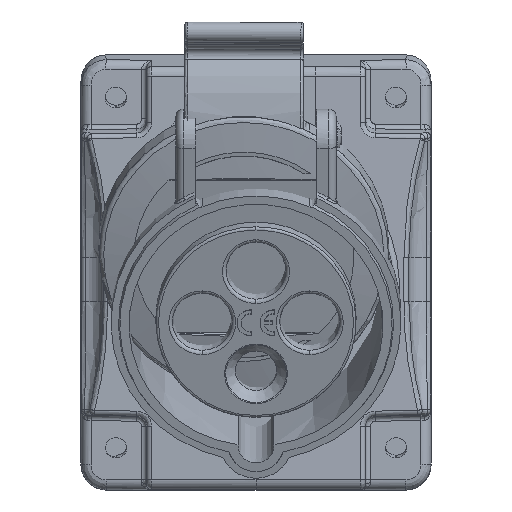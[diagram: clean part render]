
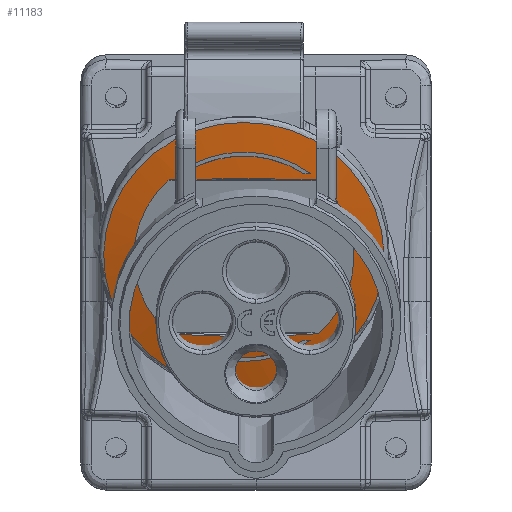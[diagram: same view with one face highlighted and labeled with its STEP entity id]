
A CAD part, front view. The second image highlights one B-rep face of the part: STEP entity #11183.
In plain terms, the highlighted spherical face has radius 220 mm.
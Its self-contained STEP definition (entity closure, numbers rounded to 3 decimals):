
#49=VERTEX_LOOP('',#26474);
#74=SPHERICAL_SURFACE('',#35414,220.);
#500=FACE_BOUND('',#49,.T.);
#501=FACE_BOUND('',#14110,.T.);
#502=FACE_BOUND('',#14111,.T.);
#503=FACE_BOUND('',#14112,.T.);
#504=FACE_BOUND('',#14113,.T.);
#11183=ADVANCED_FACE('',(#500,#501,#502,#503,#504),#74,.T.);
#14110=EDGE_LOOP('',(#22140,#22141));
#14111=EDGE_LOOP('',(#22142,#22143,#22144,#22145));
#14112=EDGE_LOOP('',(#22146,#22147,#22148,#22149));
#14113=EDGE_LOOP('',(#22150,#22151,#22152,#22153));
#15229=CIRCLE('',#35261,178.7);
#15231=CIRCLE('',#35264,22.022);
#15232=CIRCLE('',#35266,21.222);
#15280=CIRCLE('',#35351,22.022);
#15285=CIRCLE('',#35358,178.7);
#15286=CIRCLE('',#35360,22.022);
#15287=CIRCLE('',#35361,22.022);
#15301=CIRCLE('',#35384,28.033);
#15318=CIRCLE('',#35410,219.303);
#15319=CIRCLE('',#35411,219.303);
#15320=CIRCLE('',#35412,219.303);
#15321=CIRCLE('',#35413,219.303);
#22140=ORIENTED_EDGE('',*,*,#30365,.T.);
#22141=ORIENTED_EDGE('',*,*,#30328,.T.);
#22142=ORIENTED_EDGE('',*,*,#30160,.T.);
#22143=ORIENTED_EDGE('',*,*,#30298,.T.);
#22144=ORIENTED_EDGE('',*,*,#30295,.T.);
#22145=ORIENTED_EDGE('',*,*,#30296,.T.);
#22146=ORIENTED_EDGE('',*,*,#30164,.T.);
#22147=ORIENTED_EDGE('',*,*,#30366,.T.);
#22148=ORIENTED_EDGE('',*,*,#30167,.T.);
#22149=ORIENTED_EDGE('',*,*,#30367,.T.);
#22150=ORIENTED_EDGE('',*,*,#30368,.T.);
#22151=ORIENTED_EDGE('',*,*,#30282,.F.);
#22152=ORIENTED_EDGE('',*,*,#30369,.T.);
#22153=ORIENTED_EDGE('',*,*,#30370,.T.);
#26324=VERTEX_POINT('',#63610);
#26326=VERTEX_POINT('',#63644);
#26327=VERTEX_POINT('',#63648);
#26330=VERTEX_POINT('',#63653);
#26331=VERTEX_POINT('',#63660);
#26332=VERTEX_POINT('',#63662);
#26421=VERTEX_POINT('',#64033);
#26422=VERTEX_POINT('',#64034);
#26432=VERTEX_POINT('',#64098);
#26434=VERTEX_POINT('',#64132);
#26452=VERTEX_POINT('',#64217);
#26453=VERTEX_POINT('',#64219);
#26474=VERTEX_POINT('',#64402);
#26475=VERTEX_POINT('',#64416);
#26476=VERTEX_POINT('',#64418);
#30160=EDGE_CURVE('',#26324,#26326,#15229,.T.);
#30164=EDGE_CURVE('',#26327,#26330,#15231,.T.);
#30167=EDGE_CURVE('',#26331,#26332,#15232,.T.);
#30282=EDGE_CURVE('',#26421,#26422,#15280,.T.);
#30295=EDGE_CURVE('',#26432,#26434,#15285,.T.);
#30296=EDGE_CURVE('',#26434,#26324,#15286,.T.);
#30298=EDGE_CURVE('',#26326,#26432,#15287,.T.);
#30328=EDGE_CURVE('',#26453,#26452,#15301,.T.);
#30365=EDGE_CURVE('',#26452,#26453,#32985,.T.);
#30366=EDGE_CURVE('',#26330,#26331,#15318,.T.);
#30367=EDGE_CURVE('',#26332,#26327,#15319,.T.);
#30368=EDGE_CURVE('',#26475,#26422,#15320,.T.);
#30369=EDGE_CURVE('',#26421,#26476,#15321,.T.);
#30370=EDGE_CURVE('',#26476,#26475,#32986,.T.);
#32985=B_SPLINE_CURVE_WITH_KNOTS('',3,(#64403,#64404,#64405,#64406,#64407,
#64408,#64409,#64410,#64411,#64412),.UNSPECIFIED.,.F.,.F.,(4,2,2,2,4),(0.,
0.25,0.5,0.75,1.),.UNSPECIFIED.);
#32986=B_SPLINE_CURVE_WITH_KNOTS('',3,(#64419,#64420,#64421,#64422,#64423,
#64424),.UNSPECIFIED.,.F.,.F.,(4,2,4),(0.,0.5,1.),.UNSPECIFIED.);
#35261=AXIS2_PLACEMENT_3D('',#63645,#39466,#39467);
#35264=AXIS2_PLACEMENT_3D('',#63654,#39474,#39475);
#35266=AXIS2_PLACEMENT_3D('',#63663,#39479,#39480);
#35351=AXIS2_PLACEMENT_3D('',#64032,#39699,#39700);
#35358=AXIS2_PLACEMENT_3D('',#64133,#39717,#39718);
#35360=AXIS2_PLACEMENT_3D('',#64135,#39721,#39722);
#35361=AXIS2_PLACEMENT_3D('',#64137,#39724,#39725);
#35384=AXIS2_PLACEMENT_3D('',#64218,#39783,#39784);
#35410=AXIS2_PLACEMENT_3D('',#64413,#39850,#39851);
#35411=AXIS2_PLACEMENT_3D('',#64414,#39852,#39853);
#35412=AXIS2_PLACEMENT_3D('',#64415,#39854,#39855);
#35413=AXIS2_PLACEMENT_3D('',#64417,#39856,#39857);
#35414=AXIS2_PLACEMENT_3D('',#64425,#39858,#39859);
#39466=DIRECTION('',(0.,0.848,-0.53));
#39467=DIRECTION('',(0.,0.53,0.848));
#39474=DIRECTION('',(0.,0.951,0.309));
#39475=DIRECTION('',(-1.,0.,0.));
#39479=DIRECTION('',(0.,-0.951,-0.309));
#39480=DIRECTION('',(-1.,0.,0.));
#39699=DIRECTION('',(0.,-0.951,-0.309));
#39700=DIRECTION('',(1.,0.,0.));
#39717=DIRECTION('',(0.,0.375,0.927));
#39718=DIRECTION('',(0.,-0.927,0.375));
#39721=DIRECTION('',(0.,0.951,0.309));
#39722=DIRECTION('',(-1.,0.,0.));
#39724=DIRECTION('',(0.,0.951,0.309));
#39725=DIRECTION('',(-1.,0.,0.));
#39783=DIRECTION('',(0.,-0.951,-0.309));
#39784=DIRECTION('',(0.,-0.309,0.951));
#39850=DIRECTION('',(0.,0.309,-0.951));
#39851=DIRECTION('',(0.,0.951,0.309));
#39852=DIRECTION('',(0.,0.309,-0.951));
#39853=DIRECTION('',(0.,0.951,0.309));
#39854=DIRECTION('',(0.,-0.309,0.951));
#39855=DIRECTION('',(0.,0.951,0.309));
#39856=DIRECTION('',(0.,-0.309,0.951));
#39857=DIRECTION('',(0.,0.951,0.309));
#39858=DIRECTION('',(0.,-0.951,-0.309));
#39859=DIRECTION('',(-0.004,0.309,-0.951));
#63610=CARTESIAN_POINT('',(12.518,107.4,30.971));
#63644=CARTESIAN_POINT('',(-17.396,107.4,30.971));
#63645=CARTESIAN_POINT('',(-2.439,201.764,181.985));
#63648=CARTESIAN_POINT('',(-15.808,96.997,62.987));
#63653=CARTESIAN_POINT('',(10.93,96.997,62.987));
#63654=CARTESIAN_POINT('',(-2.439,102.405,46.343));
#63660=CARTESIAN_POINT('',(9.567,96.922,62.962));
#63662=CARTESIAN_POINT('',(-14.444,96.922,62.962));
#63663=CARTESIAN_POINT('',(-2.439,102.33,46.319));
#64032=CARTESIAN_POINT('',(-2.439,102.405,46.343));
#64033=CARTESIAN_POINT('',(-15.807,107.813,29.699));
#64034=CARTESIAN_POINT('',(10.929,107.813,29.699));
#64098=CARTESIAN_POINT('',(-17.397,97.41,61.715));
#64132=CARTESIAN_POINT('',(12.519,97.41,61.715));
#64133=CARTESIAN_POINT('',(-2.439,262.516,-4.992));
#64135=CARTESIAN_POINT('',(-2.439,102.405,46.343));
#64137=CARTESIAN_POINT('',(-2.439,102.405,46.343));
#64217=CARTESIAN_POINT('',(-8.269,111.533,20.478));
#64218=CARTESIAN_POINT('',(-2.439,103.06,46.556));
#64219=CARTESIAN_POINT('',(3.391,111.533,20.478));
#64402=CARTESIAN_POINT('',(-15.808,107.813,29.699));
#64403=CARTESIAN_POINT('',(-8.269,111.533,20.478));
#64404=CARTESIAN_POINT('',(-7.871,112.049,19.355));
#64405=CARTESIAN_POINT('',(-7.087,112.502,18.368));
#64406=CARTESIAN_POINT('',(-5.003,113.14,16.98));
#64407=CARTESIAN_POINT('',(-3.737,113.315,16.601));
#64408=CARTESIAN_POINT('',(-1.14,113.315,16.601));
#64409=CARTESIAN_POINT('',(0.126,113.14,16.981));
#64410=CARTESIAN_POINT('',(2.208,112.503,18.367));
#64411=CARTESIAN_POINT('',(2.993,112.049,19.355));
#64412=CARTESIAN_POINT('',(3.391,111.533,20.478));
#64413=CARTESIAN_POINT('',(-2.439,305.179,130.629));
#64414=CARTESIAN_POINT('',(-2.439,305.179,130.629));
#64415=CARTESIAN_POINT('',(-2.439,315.995,97.342));
#64416=CARTESIAN_POINT('',(9.567,107.738,29.675));
#64417=CARTESIAN_POINT('',(-2.439,315.995,97.342));
#64418=CARTESIAN_POINT('',(-14.444,107.738,29.675));
#64419=CARTESIAN_POINT('',(-14.444,107.738,29.675));
#64420=CARTESIAN_POINT('',(-10.907,108.488,27.367));
#64421=CARTESIAN_POINT('',(-6.667,108.889,26.131));
#64422=CARTESIAN_POINT('',(1.829,108.887,26.139));
#64423=CARTESIAN_POINT('',(6.029,108.488,27.367));
#64424=CARTESIAN_POINT('',(9.567,107.738,29.675));
#64425=CARTESIAN_POINT('',(-2.439,310.587,113.986));
